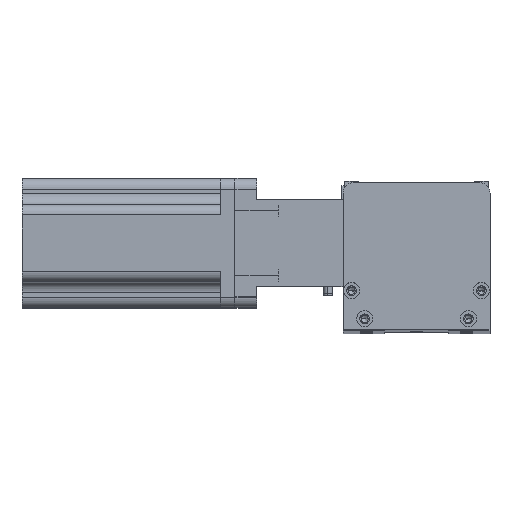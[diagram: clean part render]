
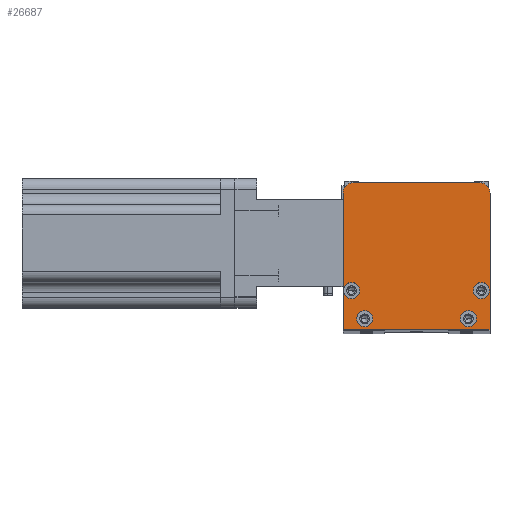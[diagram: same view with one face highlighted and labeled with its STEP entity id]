
A CAD part, top view. The second image highlights one B-rep face of the part: STEP entity #26687.
In plain terms, the highlighted planar face has unit normal (0, 0, 1) as drawn and (0, 0, -1) by its records, which use the part's own axes.
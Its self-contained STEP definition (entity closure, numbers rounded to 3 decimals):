
#456 = CARTESIAN_POINT ( 'NONE',  ( 0.25, 18., 0. ) ) ;
#597 = ORIENTED_EDGE ( 'NONE', *, *, #13597, .F. ) ;
#781 = CARTESIAN_POINT ( 'NONE',  ( 63., 63., 0. ) ) ;
#1344 = DIRECTION ( 'NONE',  ( -1., 0., 0. ) ) ;
#1393 = CARTESIAN_POINT ( 'NONE',  ( 13.75, 5., 0. ) ) ;
#1464 = ORIENTED_EDGE ( 'NONE', *, *, #5728, .F. ) ;
#1722 = AXIS2_PLACEMENT_3D ( 'NONE', #10389, #26312, #12680 ) ;
#2252 = DIRECTION ( 'NONE',  ( -1., 0., 0. ) ) ;
#2575 = CARTESIAN_POINT ( 'NONE',  ( 0., 63., 0. ) ) ;
#2583 = CARTESIAN_POINT ( 'NONE',  ( 6.25, 5., 0. ) ) ;
#3015 = DIRECTION ( 'NONE',  ( 1., 0., 0. ) ) ;
#3107 = ORIENTED_EDGE ( 'NONE', *, *, #16621, .F. ) ;
#3109 = ORIENTED_EDGE ( 'NONE', *, *, #6463, .T. ) ;
#3375 = CARTESIAN_POINT ( 'NONE',  ( 60.25, 18., 0. ) ) ;
#3557 = ORIENTED_EDGE ( 'NONE', *, *, #10186, .F. ) ;
#3671 = VERTEX_POINT ( 'NONE', #1393 ) ;
#3859 = ORIENTED_EDGE ( 'NONE', *, *, #8310, .F. ) ;
#4233 = CARTESIAN_POINT ( 'NONE',  ( 5., 63., 0. ) ) ;
#4584 = ORIENTED_EDGE ( 'NONE', *, *, #19095, .F. ) ;
#4767 = ORIENTED_EDGE ( 'NONE', *, *, #10708, .F. ) ;
#4973 = FACE_BOUND ( 'NONE', #18650, .T. ) ;
#5153 = CARTESIAN_POINT ( 'NONE',  ( 54.25, 5., 0. ) ) ;
#5257 = CIRCLE ( 'NONE', #14793, 3.75 ) ;
#5289 = CARTESIAN_POINT ( 'NONE',  ( 64., 18., 0. ) ) ;
#5514 = EDGE_CURVE ( 'NONE', #23887, #8123, #5743, .T. ) ;
#5666 = FACE_BOUND ( 'NONE', #15290, .T. ) ;
#5728 = EDGE_CURVE ( 'NONE', #13376, #8123, #7516, .T. ) ;
#5743 = CIRCLE ( 'NONE', #9796, 5. ) ;
#5801 = AXIS2_PLACEMENT_3D ( 'NONE', #20764, #7101, #23029 ) ;
#6014 = DIRECTION ( 'NONE',  ( 0., 1., 0. ) ) ;
#6206 = CARTESIAN_POINT ( 'NONE',  ( 10., 5., 0. ) ) ;
#6463 = EDGE_CURVE ( 'NONE', #26721, #12279, #29232, .T. ) ;
#6477 = DIRECTION ( 'NONE',  ( 1., 0., 0. ) ) ;
#6933 = EDGE_CURVE ( 'NONE', #22707, #20605, #8491, .T. ) ;
#7101 = DIRECTION ( 'NONE',  ( 0., 0., -1. ) ) ;
#7491 = AXIS2_PLACEMENT_3D ( 'NONE', #5289, #21215, #7560 ) ;
#7516 = LINE ( 'NONE', #24223, #26382 ) ;
#7560 = DIRECTION ( 'NONE',  ( -1., 0., 0. ) ) ;
#7859 = DIRECTION ( 'NONE',  ( 0., 0., -1. ) ) ;
#8123 = VERTEX_POINT ( 'NONE', #17590 ) ;
#8310 = EDGE_CURVE ( 'NONE', #16891, #23465, #19145, .T. ) ;
#8477 = DIRECTION ( 'NONE',  ( -1., 0., 0. ) ) ;
#8491 = CIRCLE ( 'NONE', #10012, 3.75 ) ;
#8586 = ORIENTED_EDGE ( 'NONE', *, *, #16772, .F. ) ;
#8594 = CARTESIAN_POINT ( 'NONE',  ( 67.75, 18., 0. ) ) ;
#8992 = LINE ( 'NONE', #24157, #27201 ) ;
#9366 = DIRECTION ( 'NONE',  ( 0., 0., -1. ) ) ;
#9523 = AXIS2_PLACEMENT_3D ( 'NONE', #11390, #27343, #13667 ) ;
#9651 = CARTESIAN_POINT ( 'NONE',  ( 61.75, 5., 0. ) ) ;
#9796 = AXIS2_PLACEMENT_3D ( 'NONE', #781, #16617, #3015 ) ;
#9827 = ORIENTED_EDGE ( 'NONE', *, *, #20212, .F. ) ;
#10012 = AXIS2_PLACEMENT_3D ( 'NONE', #21517, #7859, #23784 ) ;
#10186 = EDGE_CURVE ( 'NONE', #11537, #3671, #21497, .T. ) ;
#10389 = CARTESIAN_POINT ( 'NONE',  ( 10., 5., 0. ) ) ;
#10484 = ORIENTED_EDGE ( 'NONE', *, *, #5514, .T. ) ;
#10511 = DIRECTION ( 'NONE',  ( 1., 0., 0. ) ) ;
#10573 = VERTEX_POINT ( 'NONE', #8594 ) ;
#10708 = EDGE_CURVE ( 'NONE', #20178, #10573, #14690, .T. ) ;
#11003 = FACE_BOUND ( 'NONE', #14622, .T. ) ;
#11322 = CARTESIAN_POINT ( 'NONE',  ( 0., 0., 0. ) ) ;
#11390 = CARTESIAN_POINT ( 'NONE',  ( 64., 18., 0. ) ) ;
#11447 = DIRECTION ( 'NONE',  ( 0., 0., 1. ) ) ;
#11490 = LINE ( 'NONE', #15920, #16868 ) ;
#11537 = VERTEX_POINT ( 'NONE', #2583 ) ;
#12279 = VERTEX_POINT ( 'NONE', #13610 ) ;
#12385 = AXIS2_PLACEMENT_3D ( 'NONE', #6206, #22157, #8477 ) ;
#12680 = DIRECTION ( 'NONE',  ( -1., 0., 0. ) ) ;
#12754 = CARTESIAN_POINT ( 'NONE',  ( 0., 0., 0. ) ) ;
#13376 = VERTEX_POINT ( 'NONE', #29036 ) ;
#13597 = EDGE_CURVE ( 'NONE', #20605, #22707, #28486, .T. ) ;
#13610 = CARTESIAN_POINT ( 'NONE',  ( 5., 68., 0. ) ) ;
#13667 = DIRECTION ( 'NONE',  ( -1., 0., 0. ) ) ;
#14543 = CIRCLE ( 'NONE', #1722, 3.75 ) ;
#14622 = EDGE_LOOP ( 'NONE', ( #3557, #17286 ) ) ;
#14690 = CIRCLE ( 'NONE', #9523, 3.75 ) ;
#14793 = AXIS2_PLACEMENT_3D ( 'NONE', #28530, #14877, #1344 ) ;
#14877 = DIRECTION ( 'NONE',  ( 0., 0., -1. ) ) ;
#15290 = EDGE_LOOP ( 'NONE', ( #3859, #9827 ) ) ;
#15539 = CARTESIAN_POINT ( 'NONE',  ( 63., 68., 0. ) ) ;
#15671 = CIRCLE ( 'NONE', #7491, 3.75 ) ;
#15920 = CARTESIAN_POINT ( 'NONE',  ( 68., 68., 0. ) ) ;
#16043 = EDGE_LOOP ( 'NONE', ( #27142, #3109, #8586, #10484, #1464, #3107 ) ) ;
#16617 = DIRECTION ( 'NONE',  ( 0., 0., -1. ) ) ;
#16621 = EDGE_CURVE ( 'NONE', #18747, #13376, #8992, .T. ) ;
#16675 = EDGE_LOOP ( 'NONE', ( #4767, #4584 ) ) ;
#16772 = EDGE_CURVE ( 'NONE', #23887, #12279, #11490, .T. ) ;
#16868 = VECTOR ( 'NONE', #2252, 1000. ) ;
#16891 = VERTEX_POINT ( 'NONE', #5153 ) ;
#17083 = FACE_BOUND ( 'NONE', #16675, .T. ) ;
#17286 = ORIENTED_EDGE ( 'NONE', *, *, #19802, .F. ) ;
#17445 = AXIS2_PLACEMENT_3D ( 'NONE', #25079, #11447, #27388 ) ;
#17590 = CARTESIAN_POINT ( 'NONE',  ( 68., 63., 0. ) ) ;
#18130 = DIRECTION ( 'NONE',  ( 0., -1., 0. ) ) ;
#18650 = EDGE_LOOP ( 'NONE', ( #597, #23524 ) ) ;
#18747 = VERTEX_POINT ( 'NONE', #12754 ) ;
#19095 = EDGE_CURVE ( 'NONE', #10573, #20178, #15671, .T. ) ;
#19145 = CIRCLE ( 'NONE', #19444, 3.75 ) ;
#19440 = EDGE_CURVE ( 'NONE', #26721, #18747, #29192, .T. ) ;
#19444 = AXIS2_PLACEMENT_3D ( 'NONE', #23023, #9366, #25293 ) ;
#19802 = EDGE_CURVE ( 'NONE', #3671, #11537, #14543, .T. ) ;
#20141 = DIRECTION ( 'NONE',  ( 0., 0., -1. ) ) ;
#20178 = VERTEX_POINT ( 'NONE', #3375 ) ;
#20212 = EDGE_CURVE ( 'NONE', #23465, #16891, #5257, .T. ) ;
#20369 = AXIS2_PLACEMENT_3D ( 'NONE', #4233, #20141, #6477 ) ;
#20593 = CARTESIAN_POINT ( 'NONE',  ( 7.75, 18., 0. ) ) ;
#20605 = VERTEX_POINT ( 'NONE', #456 ) ;
#20764 = CARTESIAN_POINT ( 'NONE',  ( 4., 18., 0. ) ) ;
#21215 = DIRECTION ( 'NONE',  ( 0., 0., -1. ) ) ;
#21497 = CIRCLE ( 'NONE', #12385, 3.75 ) ;
#21517 = CARTESIAN_POINT ( 'NONE',  ( 4., 18., 0. ) ) ;
#22157 = DIRECTION ( 'NONE',  ( 0., 0., -1. ) ) ;
#22707 = VERTEX_POINT ( 'NONE', #20593 ) ;
#22807 = PLANE ( 'NONE',  #17445 ) ;
#23023 = CARTESIAN_POINT ( 'NONE',  ( 58., 5., 0. ) ) ;
#23029 = DIRECTION ( 'NONE',  ( -1., 0., 0. ) ) ;
#23102 = VECTOR ( 'NONE', #18130, 1000. ) ;
#23465 = VERTEX_POINT ( 'NONE', #9651 ) ;
#23524 = ORIENTED_EDGE ( 'NONE', *, *, #6933, .F. ) ;
#23784 = DIRECTION ( 'NONE',  ( -1., 0., 0. ) ) ;
#23887 = VERTEX_POINT ( 'NONE', #15539 ) ;
#24157 = CARTESIAN_POINT ( 'NONE',  ( 68., 0., 0. ) ) ;
#24223 = CARTESIAN_POINT ( 'NONE',  ( 68., 0., 0. ) ) ;
#25079 = CARTESIAN_POINT ( 'NONE',  ( 0., 0., 0. ) ) ;
#25293 = DIRECTION ( 'NONE',  ( -1., 0., 0. ) ) ;
#26312 = DIRECTION ( 'NONE',  ( 0., 0., -1. ) ) ;
#26382 = VECTOR ( 'NONE', #6014, 1000. ) ;
#26687 = ADVANCED_FACE ( 'NONE', ( #17083, #4973, #11003, #5666, #28476 ), #22807, .F. ) ;
#26721 = VERTEX_POINT ( 'NONE', #2575 ) ;
#27142 = ORIENTED_EDGE ( 'NONE', *, *, #19440, .F. ) ;
#27201 = VECTOR ( 'NONE', #10511, 1000. ) ;
#27343 = DIRECTION ( 'NONE',  ( 0., 0., -1. ) ) ;
#27388 = DIRECTION ( 'NONE',  ( 1., 0., 0. ) ) ;
#28476 = FACE_OUTER_BOUND ( 'NONE', #16043, .T. ) ;
#28486 = CIRCLE ( 'NONE', #5801, 3.75 ) ;
#28530 = CARTESIAN_POINT ( 'NONE',  ( 58., 5., 0. ) ) ;
#29036 = CARTESIAN_POINT ( 'NONE',  ( 68., 0., 0. ) ) ;
#29192 = LINE ( 'NONE', #11322, #23102 ) ;
#29232 = CIRCLE ( 'NONE', #20369, 5. ) ;
